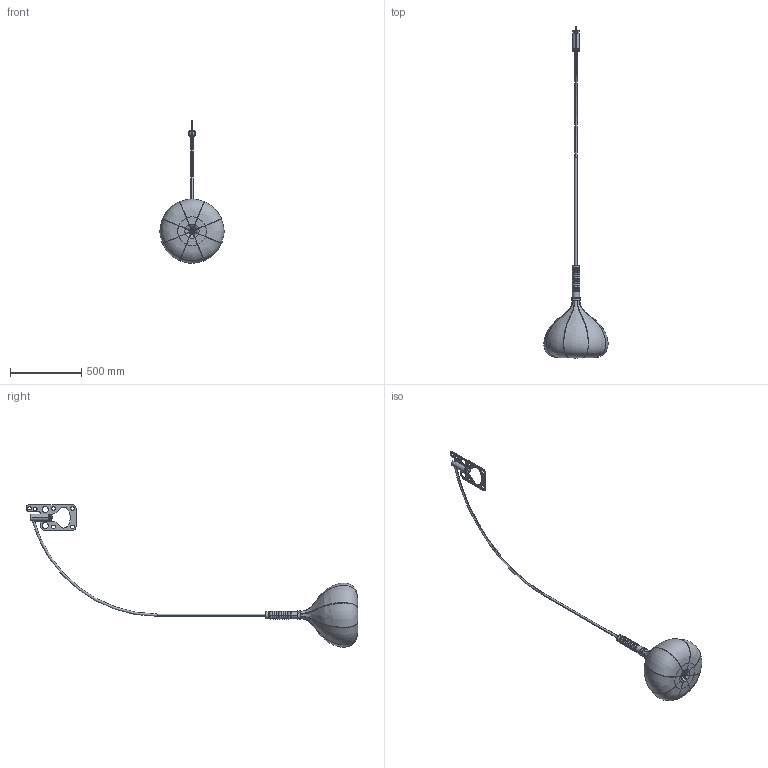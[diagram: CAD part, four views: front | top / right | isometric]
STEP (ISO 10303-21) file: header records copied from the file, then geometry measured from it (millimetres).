
FILE_DESCRIPTION (( 'STEP AP214' ), '1' );
FILE_NAME ('PT BUL-BO23 30012024Z.STEP', '2024-01-30T09:42:22', ( '' ), ( '' ), 'SwSTEP 2.0', 'SolidWorks 2023', '' );
FILE_SCHEMA (( 'AUTOMOTIVE_DESIGN' ));
Length unit declared in the file: millimetre
Products named in the file (22): socket set screw flat point_1_iso_ISO 4026 - M3 x 3-C; 2.5C.AXO07.LP01.34_rev_A; 2.5C.AXO07.LP01.26; 2.5C.AXO07.LP01.66; AXO07.LP02.C007.R0A; 2.5C.AXO07.LP01.04; PT BUL-BO23  30012024Z; socket countersunk head screw_1_iso_ISO 10642 - M4 x 8 - 8C; O Rings_O RING Øi. 41.00 Sp. 1.78; AXO07.LP02.C006.R0A; 2.5C.AXO07.LP01.08; 2.5C.AXO07.LP01.65; 2.5C.AXO07.LP01.00; 2.5A.AXO07.LP01.M1_rev_A_VERS. ORIGINALE; 2.5C.AXO07.LP01.19; 2.5C.AXO07.LP01.12; 2.5C.AXO07.LP01.09; AXO07.LP02.C004.R0B; AXO07.LP02.C010.R01; socket countersunk head screw_1_iso_ISO 10642 - M3 x 8 - 8C; AXO07.LP02.AM01.R0C; AXO07.LP02.AM02.R0C
Assembly tree (24 placements, depth 4):
  PT BUL-BO23  30012024Z
    2.5A.AXO07.LP01.M1_rev_A_VERS. ORIGINALE
      2.5C.AXO07.LP01.00
      2.5C.AXO07.LP01.09
      2.5C.AXO07.LP01.04
      2.5C.AXO07.LP01.34_rev_A  x3
      2.5C.AXO07.LP01.12
      2.5C.AXO07.LP01.66
      2.5C.AXO07.LP01.65
    AXO07.LP02.AM01.R0C
      socket countersunk head screw_1_iso_ISO 10642 - M3 x 8 - 8C  x2
      AXO07.LP02.C006.R0A
      2.5C.AXO07.LP01.08
      AXO07.LP02.AM02.R0C
        O Rings_O RING Øi. 41.00 Sp. 1.78
        socket countersunk head screw_1_iso_ISO 10642 - M4 x 8 - 8C
        AXO07.LP02.C004.R0B
        2.5C.AXO07.LP01.26
        AXO07.LP02.C010.R01
        2.5C.AXO07.LP01.19
      AXO07.LP02.C007.R0A
      socket set screw flat point_1_iso_ISO 4026 - M3 x 3-C
Bounding box: 450 x 2326.3 x 999.01 mm (x, y, z)
Volume: 1404993.1 mm3; surface area: 1513376.4 mm2
Topology: 25 solids, 25 shells, 844 faces, 2083 edges, 1308 vertices
Faces by surface type: cylinder 320, plane 264, bspline 126, torus 76, cone 54, sphere 4
Entity records: 52218 total; most frequent: CARTESIAN_POINT 34010, ORIENTED_EDGE 3854, DIRECTION 3427, EDGE_CURVE 1927, AXIS2_PLACEMENT_3D 1315, VERTEX_POINT 1213, EDGE_LOOP 854, LINE 797
